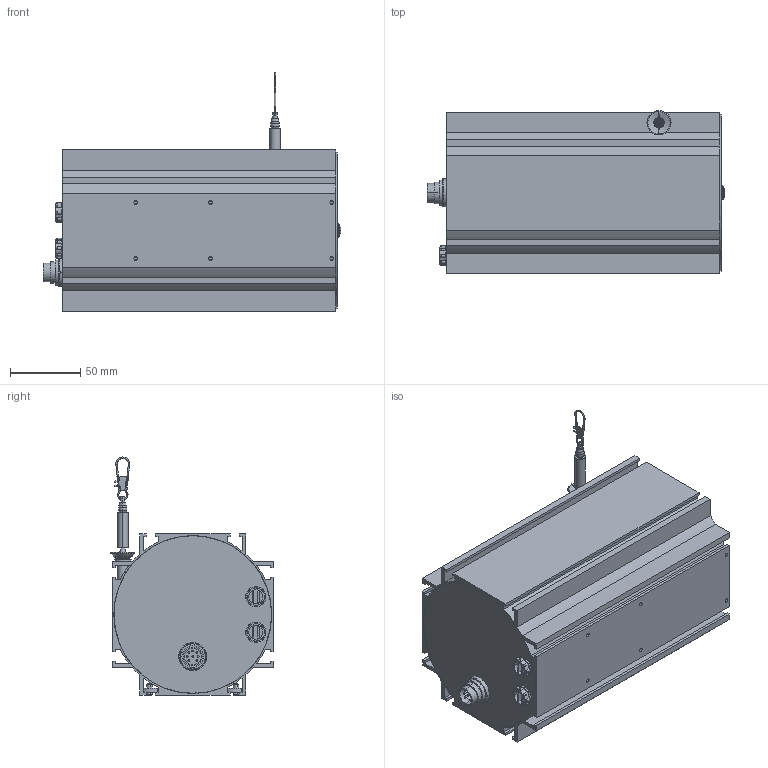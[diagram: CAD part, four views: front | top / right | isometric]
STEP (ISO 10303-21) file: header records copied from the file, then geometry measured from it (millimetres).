
FILE_DESCRIPTION((''),'2;1');
FILE_NAME('','2007-03-21T',(''),(''),'PRO/ENGINEER BY PARAMETRIC TECHNOLOGY CORPORATION, 2003250','PRO/ENGINEER BY PARAMETRIC TECHNOLOGY CORPORATION, 2003250','');
FILE_SCHEMA(('CONFIG_CONTROL_DESIGN'));
Length unit declared in the file: millimetre
Bounding box: 212.47 x 116.11 x 170 mm (x, y, z)
Volume: 390067.5 mm3; surface area: 249406.3 mm2
Topology: 1 solids, 5 shells, 679 faces, 1782 edges, 1181 vertices
Faces by surface type: plane 316, cylinder 257, cone 60, torus 26, bspline 16, sphere 4
Entity records: 22256 total; most frequent: CARTESIAN_POINT 4988, DIRECTION 3749, ORIENTED_EDGE 3520, EDGE_CURVE 1760, AXIS2_PLACEMENT_3D 1433, VERTEX_POINT 1181, VECTOR 883, LINE 883
